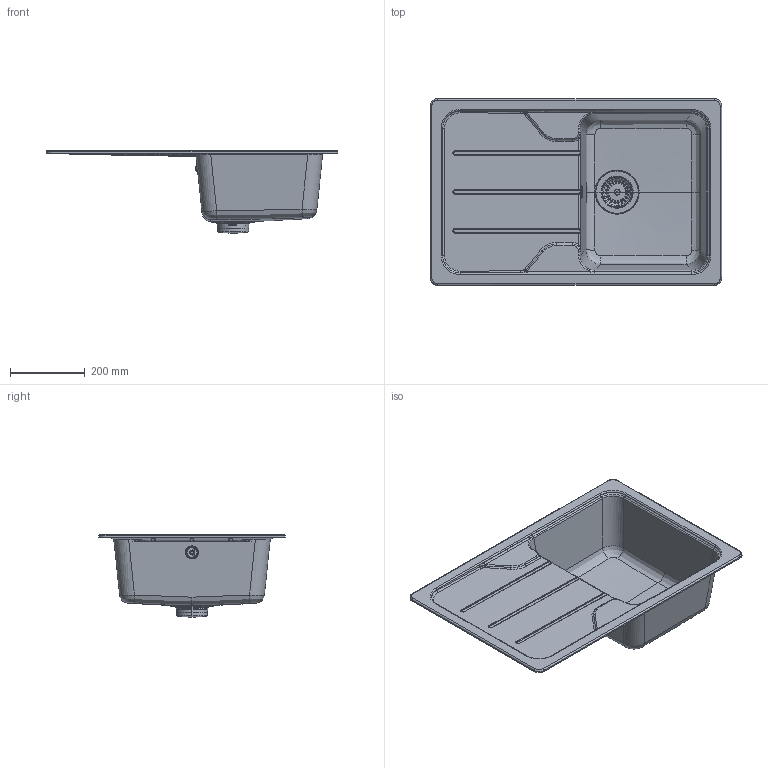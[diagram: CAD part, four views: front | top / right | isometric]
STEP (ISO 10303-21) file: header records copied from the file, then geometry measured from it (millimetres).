
FILE_DESCRIPTION(/* description */ (''),/* implementation_level */ '2;1');
FILE_NAME(/* name */ 'FOMD100S',/* time_stamp */ '2015-11-19T13:18:49+01:00',/* author */ (''),/* organization */ (''),/* preprocessor_version */ 'ST-DEVELOPER v15',/* originating_system */ '',/* authorisation */ '');
FILE_SCHEMA (('AUTOMOTIVE_DESIGN'));
Length unit declared in the file: millimetre
Products named in the file (1): Document
Bounding box: 780 x 500 x 222.07 mm (x, y, z)
Volume: 31105.3 mm3; surface area: 663028.7 mm2
Topology: 3 solids, 89 shells, 430 faces, 1437 edges, 1050 vertices
Faces by surface type: bspline 384, plane 46
Entity records: 63595 total; most frequent: CARTESIAN_POINT 55898, ORIENTED_EDGE 2408, EDGE_CURVE 1427, VERTEX_POINT 1051, B_SPLINE_CURVE_WITH_KNOTS 901, EDGE_LOOP 518, ADVANCED_FACE 430, FACE_OUTER_BOUND 430
